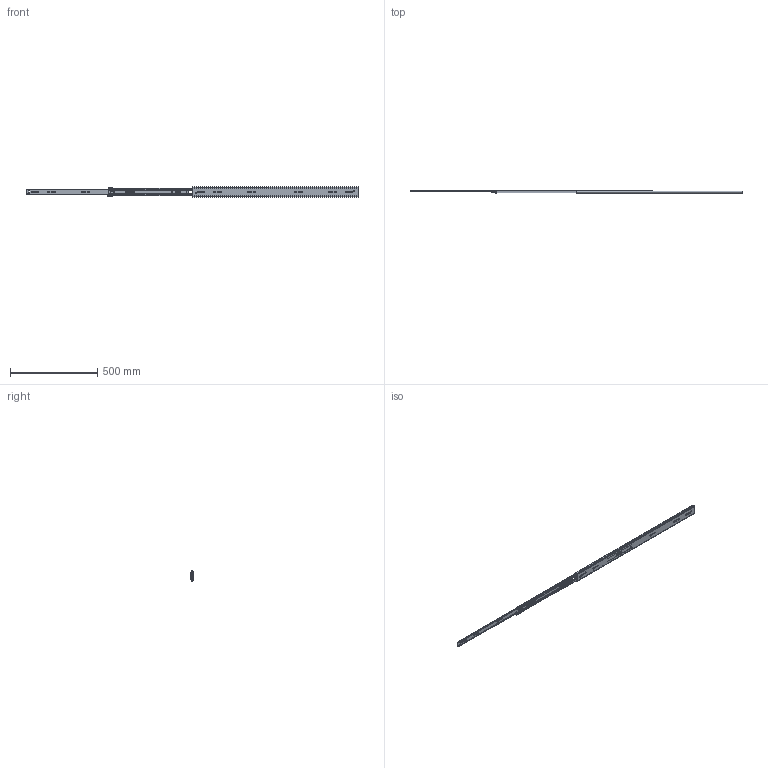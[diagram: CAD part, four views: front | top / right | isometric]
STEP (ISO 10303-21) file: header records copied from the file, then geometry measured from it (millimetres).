
FILE_DESCRIPTION((''),'2;1');
FILE_NAME('1057-C-38_ASM','2025-10-24T',('蔽翩'),(''),'CREO PARAMETRIC BY PTC INC, 2018220','CREO PARAMETRIC BY PTC INC, 2018220','');
FILE_SCHEMA(('CONFIG_CONTROL_DESIGN'));
Products named in the file (21): KP-57-01WEIKE-31_________; MAODING-WAI_________; 1057DAZHUJIA-20GE1_________; 1057ZHUJIADANWEIJIAO123_____; 1057-5-6GANZHU1_________; 1057DAZHUJIA-20GE_12_ASM; 1057-C-20-KE__________ASM; KP-57-01ZHONGGUI-36_; PEIJIAN-22_________; ZHUANJIAO112_________; LIUJIAO-DING11_________; MAODING-P_________; 1057-XIAOJIAOLUN38; PEIJIAN-ZHONG__________ASM; 1057XIAOZHUJIA___20__________; 1057XIAOZHUJIA-20GE___________ASM; KP-57-01ZHONGGUI-36__ASM; KP-57-01NEIGUI-241_________; XIN-JIAOGUAN38; KP-57-01NEIGUI-241__________ASM; 1057-C-38_ASM
Assembly tree (155 placements, depth 4):
  1057-C-38_ASM
    1057-C-20-KE__________ASM
      KP-57-01WEIKE-31_________
      MAODING-WAI_________  x2
      1057DAZHUJIA-20GE_12_ASM
        1057DAZHUJIA-20GE1_________
        1057ZHUJIADANWEIJIAO123_____  x2
        1057-5-6GANZHU1_________  x64
    KP-57-01ZHONGGUI-36__ASM
      KP-57-01ZHONGGUI-36_
      PEIJIAN-ZHONG__________ASM  x2
        PEIJIAN-22_________
        ZHUANJIAO112_________
        LIUJIAO-DING11_________
        MAODING-P_________
        1057-XIAOJIAOLUN38
      MAODING-WAI_________  x2
      1057XIAOZHUJIA-20GE___________ASM
        1057XIAOZHUJIA___20__________
        1057-5-6GANZHU1_________  x64
        1057ZHUJIADANWEIJIAO123_____  x2
    KP-57-01NEIGUI-241__________ASM
      KP-57-01NEIGUI-241_________
      XIN-JIAOGUAN38  x2
Bounding box: 1900 x 19.8 x 57.67 mm (x, y, z)
Volume: 406753.4 mm3; surface area: 474269.4 mm2
Topology: 153 solids, 153 shells, 4038 faces, 11222 edges, 6972 vertices
Faces by surface type: plane 1802, cylinder 1638, sphere 262, bspline 118, cone 114, torus 96, extrusion 8
Entity records: 115241 total; most frequent: CARTESIAN_POINT 24355, DIRECTION 19304, ORIENTED_EDGE 18854, EDGE_CURVE 9427, AXIS2_PLACEMENT_3D 6676, VERTEX_POINT 6074, VECTOR 5952, LINE 5948
